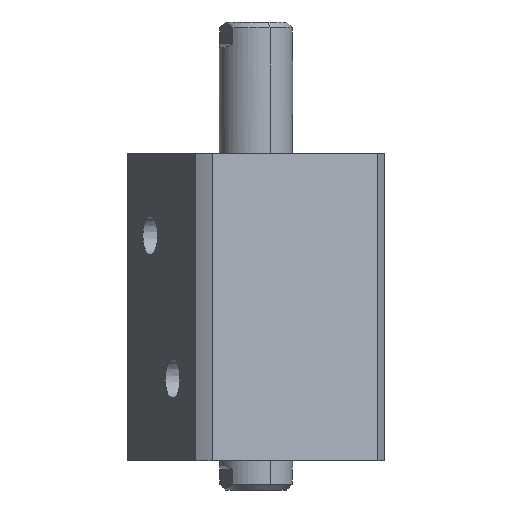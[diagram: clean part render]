
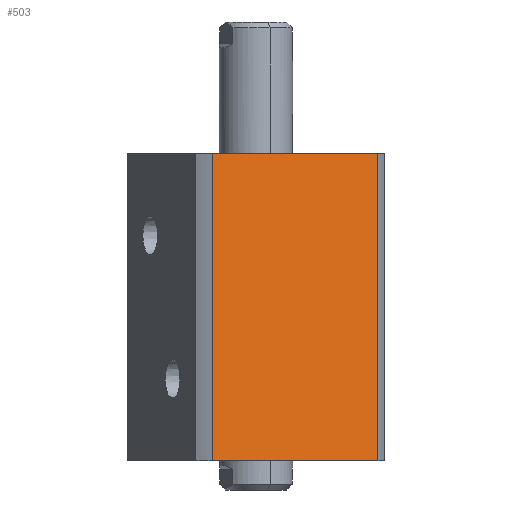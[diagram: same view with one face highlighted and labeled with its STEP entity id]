
A CAD part, front view. The second image highlights one B-rep face of the part: STEP entity #503.
In plain terms, the highlighted planar face has unit normal (0.383, -0.924, 0) as drawn and (1, 0, 0) by its records, which use the part's own axes.
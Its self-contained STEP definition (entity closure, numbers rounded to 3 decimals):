
#197 = EDGE_LOOP ( 'NONE', ( #8782, #4786, #9283, #7656 ) ) ;
#503 = ADVANCED_FACE ( 'NONE', ( #4169 ), #3615, .F. ) ;
#691 = CARTESIAN_POINT ( 'NONE',  ( 35., -30.615, 105. ) ) ;
#773 = LINE ( 'NONE', #3756, #9044 ) ;
#845 = CARTESIAN_POINT ( 'NONE',  ( 35., -30.615, 0. ) ) ;
#969 = CARTESIAN_POINT ( 'NONE',  ( 35., -30.615, -195. ) ) ;
#1099 = EDGE_CURVE ( 'NONE', #4438, #1801, #8823, .T. ) ;
#1621 = CARTESIAN_POINT ( 'NONE',  ( 35., 30.615, 105. ) ) ;
#1705 = VECTOR ( 'NONE', #2600, 1000. ) ;
#1801 = VERTEX_POINT ( 'NONE', #7744 ) ;
#2468 = VECTOR ( 'NONE', #9330, 1000. ) ;
#2600 = DIRECTION ( 'NONE',  ( 0., 0., 1. ) ) ;
#2720 = EDGE_CURVE ( 'NONE', #4517, #1801, #8803, .T. ) ;
#3185 = DIRECTION ( 'NONE',  ( 0., 1., 0. ) ) ;
#3615 = PLANE ( 'NONE',  #3877 ) ;
#3756 = CARTESIAN_POINT ( 'NONE',  ( 35., 35., 105. ) ) ;
#3796 = CARTESIAN_POINT ( 'NONE',  ( 35., 35., 105. ) ) ;
#3829 = DIRECTION ( 'NONE',  ( 0., -1., 0. ) ) ;
#3877 = AXIS2_PLACEMENT_3D ( 'NONE', #3796, #3907, #3829 ) ;
#3907 = DIRECTION ( 'NONE',  ( -1., 0., 0. ) ) ;
#4169 = FACE_OUTER_BOUND ( 'NONE', #197, .T. ) ;
#4185 = EDGE_CURVE ( 'NONE', #7764, #4438, #773, .T. ) ;
#4438 = VERTEX_POINT ( 'NONE', #1621 ) ;
#4517 = VERTEX_POINT ( 'NONE', #845 ) ;
#4562 = DIRECTION ( 'NONE',  ( 0., 1., 0. ) ) ;
#4786 = ORIENTED_EDGE ( 'NONE', *, *, #2720, .T. ) ;
#5058 = CARTESIAN_POINT ( 'NONE',  ( 35., 30.615, -195. ) ) ;
#5346 = EDGE_CURVE ( 'NONE', #4517, #7764, #9966, .T. ) ;
#6704 = VECTOR ( 'NONE', #3185, 1000. ) ;
#7656 = ORIENTED_EDGE ( 'NONE', *, *, #4185, .F. ) ;
#7744 = CARTESIAN_POINT ( 'NONE',  ( 35., 30.615, 0. ) ) ;
#7764 = VERTEX_POINT ( 'NONE', #691 ) ;
#8730 = CARTESIAN_POINT ( 'NONE',  ( 35., 35., 0. ) ) ;
#8782 = ORIENTED_EDGE ( 'NONE', *, *, #5346, .F. ) ;
#8803 = LINE ( 'NONE', #8730, #6704 ) ;
#8823 = LINE ( 'NONE', #5058, #2468 ) ;
#9044 = VECTOR ( 'NONE', #4562, 1000. ) ;
#9283 = ORIENTED_EDGE ( 'NONE', *, *, #1099, .F. ) ;
#9330 = DIRECTION ( 'NONE',  ( 0., 0., -1. ) ) ;
#9966 = LINE ( 'NONE', #969, #1705 ) ;
